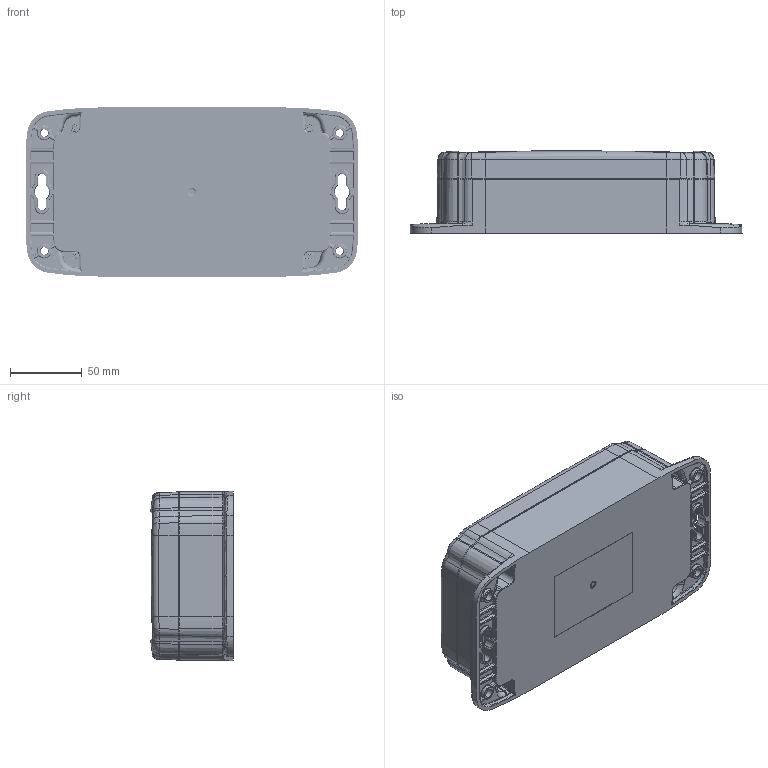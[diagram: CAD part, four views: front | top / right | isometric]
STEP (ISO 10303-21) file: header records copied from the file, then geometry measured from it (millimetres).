
FILE_DESCRIPTION (( 'STEP AP214' ), '1' );
FILE_NAME ('ML-48F.STEP', '2023-05-10T17:04:36', ( '' ), ( '' ), 'SwSTEP 2.0', 'SolidWorks 2023', '' );
FILE_SCHEMA (( 'AUTOMOTIVE_DESIGN' ));
Length unit declared in the file: inch
Products named in the file (10): ML-48BF_ML-48BF*15; ML-48F; INSERT-3_INSERTS-3; ML-47CG_ML-47CG*15; SCREWS-SS6-4_SCREWS-SS6-4; LABEL-100; ML-47C_ML-47C*15; ML-48BFN_ML-48BFN*15; GASKET-3_GASKET-3; SCREWS-SS6-32-1_SCREWS-SS6-32-1
Assembly tree (15 placements, depth 3):
  ML-48F
    ML-48BF_ML-48BF*15
      ML-48BFN_ML-48BFN*15
      INSERT-3_INSERTS-3  x4
      LABEL-100
    ML-47CG_ML-47CG*15
      ML-47C_ML-47C*15
      GASKET-3_GASKET-3
    SCREWS-SS6-4_SCREWS-SS6-4
      SCREWS-SS6-32-1_SCREWS-SS6-32-1  x4
Bounding box: 231.39 x 57.49 x 117.87 mm (x, y, z)
Volume: 279038.1 mm3; surface area: 188248.1 mm2
Topology: 12 solids, 12 shells, 2603 faces, 6034 edges, 3425 vertices
Faces by surface type: bspline 649, torus 496, cylinder 478, cone 450, plane 418, sphere 112
Full cylindrical faces by diameter (mm): 2.56 x4, 2.705 x4, 3.485 x4, 4.318 x4, 4.445 x16, 4.699 x8, 5.283 x8, 6.274 x4, 6.858 x4
Entity records: 93080 total; most frequent: CARTESIAN_POINT 46174, ORIENTED_EDGE 9982, DIRECTION 9569, EDGE_CURVE 4991, AXIS2_PLACEMENT_3D 4131, VERTEX_POINT 2958, CIRCLE 2447, EDGE_LOOP 2425
